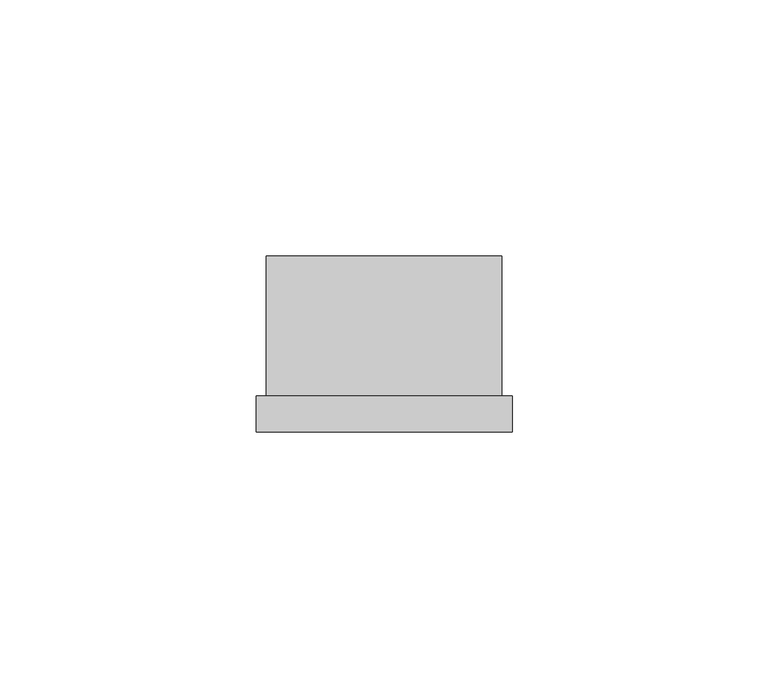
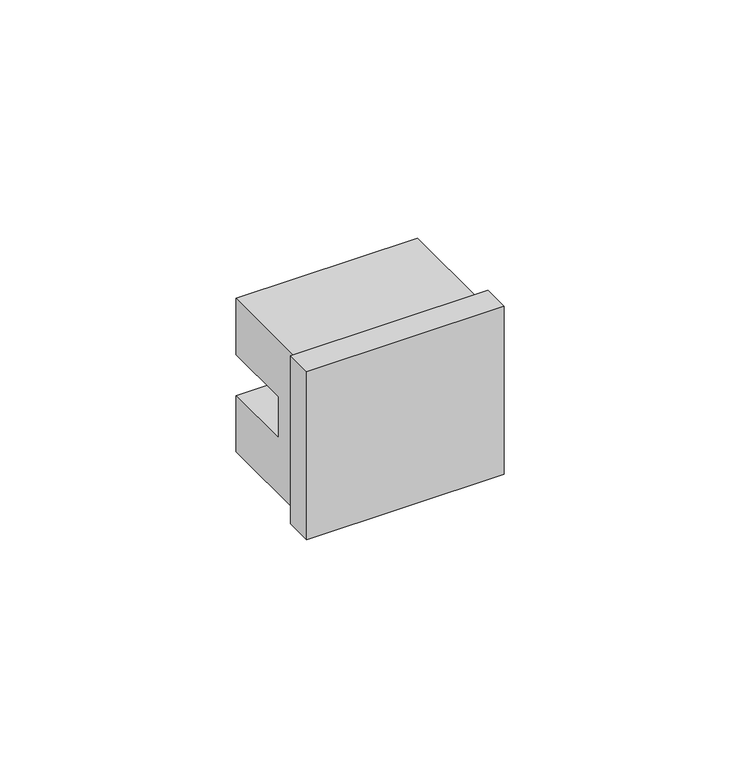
"""IFC4 building model written with IfcOpenShell, lengths in millimetres: proxy geometry, КНС_Выключатели_DKC : 2 модуля."""

from ifc_helpers import new_model, si_unit, frame, origin, place, context, project, spatial, polyline, outline, extrude, source, transform, mapped, element, save


def electrical_fixtures_535c511b(model_context):
    return source(origin(), model_context, "Body", "SweptSolid", [
        extrude(outline(polyline([(0.0, 20.5), (0.0, 5.5), (-18.7179028, 5.5), (-18.7179028, -5.4624854), (0.0, -5.4624854), (0.0, -20.5), (-27.4, -20.5), (-27.4, 20.5), (0.0, 20.5)])), frame((-23.0, 0.0, 0.0), z_axis=(1.0, 0.0, 0.0), x_axis=(0.0, 1.0, 0.0)), (0.0, 0.0, 1.0), 46.0),
        extrude(outline(polyline([(25.0, -34.4), (-25.0, -34.4), (-25.0, -27.4), (25.0, -27.4), (25.0, -34.4)])), frame((0.0, 0.0, -22.5), z_axis=(0.0, 0.0, 1.0), x_axis=(1.0, 0.0, 0.0)), (0.0, 0.0, 1.0), 45.0),
    ])


if __name__ == "__main__":
    model = new_model("IFC4")
    model_context = context("Model", 3, world=origin())
    ifc_project = project(units=[si_unit("LENGTHUNIT", "METRE", prefix="MILLI")], contexts=[model_context])
    site = spatial("IfcSite", under=ifc_project)
    building = spatial("IfcBuilding", under=site)
    placement = place(None, origin())
    electrical_fixtures_shape = electrical_fixtures_535c511b(model_context)
    element("IfcBuildingElementProxy", 1, Name="КНС_Выключатели_DKC : 2 модуля", ObjectType="КНС_Выключатели_DKC : 2 модуля", at=placement, inside=building, context=model_context, shape_type="MappedRepresentation", body=[
        mapped(electrical_fixtures_shape, transform((0.0, 0.0, 0.0), x_axis=(1.0, 0.0, 0.0), y_axis=(0.0, 1.0, 0.0), z_axis=(0.0, 0.0, 1.0))),
    ])
    save(model, "model.ifc")
